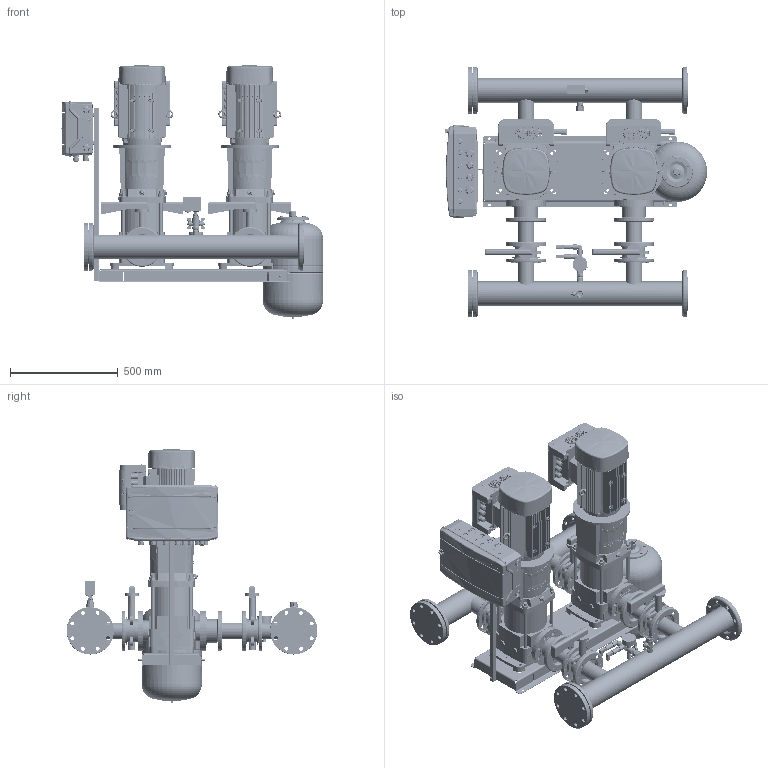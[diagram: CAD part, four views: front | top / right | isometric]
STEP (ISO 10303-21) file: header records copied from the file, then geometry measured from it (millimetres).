
FILE_DESCRIPTION(('CATIA V5 STEP Exchange','CAx-IF Rec.Pracs.--- Model Styling and Organization---1.4--- 2014-01-23','CAx-IF Rec.Pracs.---3D Tessellated Data Validation Properties---0.5---2014-09-14'),'2;1');
FILE_NAME('C:\Users\78432\YandexDisk\Drawings and 3D\3D Hydro Booster\Hydro-ME 3D\Hydro Models\Hydro ME 2 CRV32-xx\Hydro ME 2 CRVE32-2.stp','2023-09-20T13:18:37+00:00',('none'),('none'),'CATIA Version 5-6 Release 2019 SP6','CATIA V5 STEP AP242 v1','none');
FILE_SCHEMA(('AP242_MANAGED_MODEL_BASED_3D_ENGINEERING_MIM_LF {1 0 10303 442 1 1 4}'));
Length unit declared in the file: millimetre
Products named in the file (52): Hydro ME 2 CRVE32-2; 92051010; CRV32-2 set; CRV 32-2_A_DIN_4kW; Base; Flange.1; Flange.2; Sleeve; Pumphead; Staybolt.1; Staybolt.2; Staybolt.3; Staybolt.4; AirVent; Motor; Plug; Non-Return Valve DN65 cpl.; 92802786; 00id2586; Buttefly Valve DN65 cpl.; 92802749; 96619619; 91040447; 91070072; 99110036; SAJ PDH30 4-7,5kW; 97941447; 405801; 91041068; 91070074; 97941484; 99110038; 00ID6959; Holder and CP 18mod; 92878909; Control ME (18mod); 2 sensors + manometer cpl.; manometr 16 bar; RPD-I-G1_2; 9021-01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
Assembly tree (69 placements, depth 4):
  Hydro ME 2 CRVE32-2
    92051010
    CRV32-2 set  x2
      CRV 32-2_A_DIN_4kW
        Base
        Flange.1
        Flange.2
        Sleeve
        Pumphead
        Staybolt.1
        Staybolt.2
        Staybolt.3
        Staybolt.4
        AirVent
        Motor
        Plug
      Non-Return Valve DN65 cpl.
        92802786
        00id2586  x2
      Buttefly Valve DN65 cpl.
        92802749
        00id2586  x2
      96619619
        91040447
        91070072  x2
        99110036  x2
      SAJ PDH30 4-7,5kW
    97941447  x2
      405801
      91041068
      91070072
      91070074
      97941484
      99110036
      99110038
    00ID6959  x2
    Holder and CP 18mod
      92878909
      Control ME (18mod)
    2 sensors + manometer cpl.
      manometr 16 bar
      RPD-I-G1_2  x2
      9021-01
      2070 1/2-1/2
      _2020 1/2-1/2
      98594078
    Tank 24L cpl.
      DN20_FF_BF_47.300.20
      9021-03
    Relay cpl.
      Relay RD-2R
      DN20_FF_BF_47.300.20
      2530 3/4-1/2
      _2530 1/2-1/4
    91078139
  WAV-24(D140 1'')
Bounding box: 1216.82 x 1164.37 x 1176.07 mm (x, y, z)
Volume: 111179262.9 mm3; surface area: 11231648 mm2
Topology: 226 solids, 248 shells, 22121 faces, 64038 edges, 43184 vertices
Faces by surface type: plane 9768, cylinder 5363, bspline 5076, cone 1323, torus 474, sphere 117
Entity records: 620669 total; most frequent: CARTESIAN_POINT 312917, ORIENTED_EDGE 78617, EDGE_CURVE 39849, DIRECTION 36690, VERTEX_POINT 26722, VECTOR 17403, LINE 17403, EDGE_LOOP 15670
